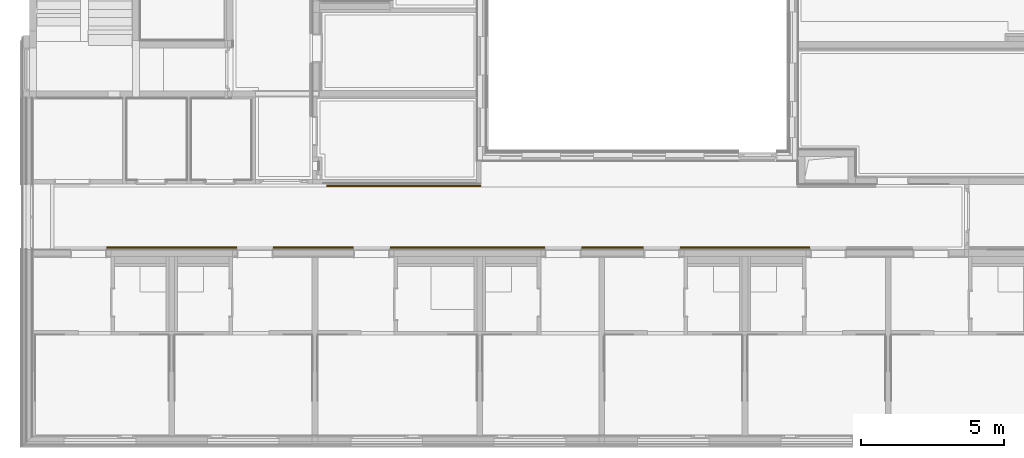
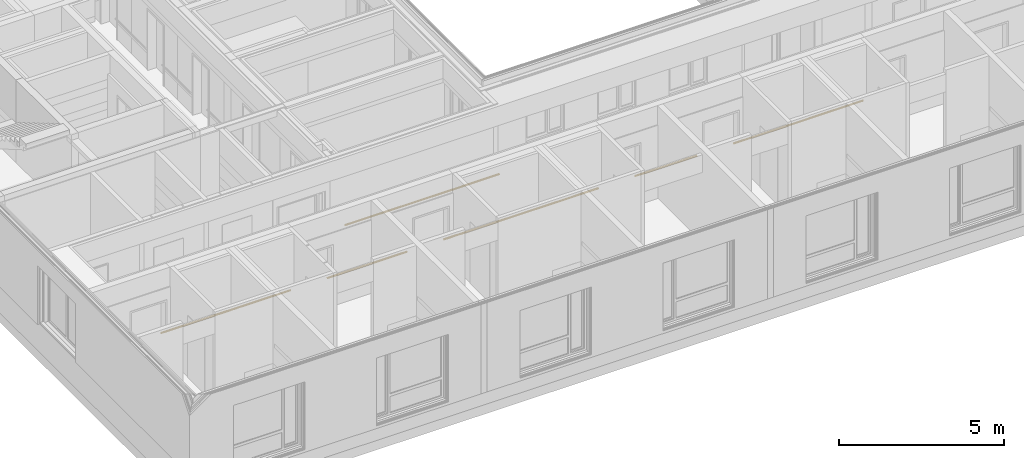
# One storey, part 192 of 207: 6 railings, 6 elements without a shape of their own.
"""IFC4 building model written with IfcOpenShell, lengths in metres."""

from ifc_helpers import new_model, entity, si_unit, converted_unit, derived_unit, frame, origin, place, context, subcontext, project, spatial, faceted_brep, material, element, aggregate, save


model = new_model("IFC4")

# Units and contexts
model_context = context("Model", 3, precision=1e-05, world=origin())
body_context = subcontext(model_context, "Body", "Model", "MODEL_VIEW")
ifc_project = project(units=[si_unit("LENGTHUNIT", "METRE"), si_unit("AREAUNIT", "SQUARE_METRE"), si_unit("VOLUMEUNIT", "CUBIC_METRE"), si_unit("MASSUNIT", "GRAM", prefix="KILO"), converted_unit("PLANEANGLEUNIT", "DEGREE", entity("IfcPlaneAngleMeasure", 0.0174532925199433), si_unit("PLANEANGLEUNIT", "RADIAN"), dimensions=[0, 0, 0, 0, 0, 0, 0]), derived_unit("THERMALTRANSMITTANCEUNIT", [(si_unit("POWERUNIT", "WATT"), 1), (si_unit("THERMODYNAMICTEMPERATUREUNIT", "KELVIN"), -1), (si_unit("LENGTHUNIT", "METRE"), -2)]), derived_unit("VOLUMETRICFLOWRATEUNIT", [(si_unit("LENGTHUNIT", "METRE"), 3), (converted_unit("TIMEUNIT", "hour", entity("IfcTimeMeasure", 3600.0), si_unit("TIMEUNIT", "SECOND"), dimensions=[0, 0, 1, 0, 0, 0, 0]), -1), (si_unit("LENGTHUNIT", "METRE"), -1)])], contexts=[model_context])

# Site, building, storey
site_placement = place(None, origin())
site = spatial("IfcSite", under=ifc_project, at=site_placement, Name="Psychiatrie Neubau Wunstorf", CompositionType="ELEMENT")
building_placement = place(site_placement, origin())
building = spatial("IfcBuilding", under=site, at=building_placement, Name="Neubau H2 Stationsgebäude", CompositionType="ELEMENT")
storey_placement = place(building_placement, frame((0.0, 0.0, -0.2)))
storey = spatial("IfcBuildingStorey", under=building, at=storey_placement, Name="H2 Ebene 0", CompositionType="ELEMENT", Elevation=-0.2)

# Assembly, railing
assembly_1_placement = place(storey_placement, frame((0.0, 0.0, 0.2)))
assembly_1 = element("IfcElementAssembly", 1, at=assembly_1_placement, inside=storey, Name="Geländer+Abstand", PredefinedType="NOTDEFINED")
ifc_material_1 = material(Name="Holz")
railing_1_placement = place(assembly_1_placement, frame((22.74, 4.38074963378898, 0.8)))
railing_1 = element("IfcRailing", 2, at=railing_1_placement, material=ifc_material_1, context=body_context, shape_type="Brep", body=[
    faceted_brep([(0.0, 0.0250000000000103, 0.000103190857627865), (0.0, 0.0293232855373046, 0.000481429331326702), (0.0, 0.0335152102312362, 0.00160465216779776), (0.0, 0.0374484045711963, 0.00343873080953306), (0.0, 0.0410033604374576, 0.00592793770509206), (0.0, 0.0440720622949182, 0.00899663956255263), (0.0, 0.0465612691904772, 0.0125515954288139), (0.0, 0.0483953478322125, 0.0164847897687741), (0.0, 0.0495185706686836, 0.0206767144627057), (0.0, 0.0498968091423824, 0.025), (0.0, 0.0495185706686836, 0.0293232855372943), (0.0, 0.0483953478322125, 0.0335152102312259), (0.0, 0.0465612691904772, 0.0374484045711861), (0.0, 0.0440720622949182, 0.0410033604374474), (0.0, 0.0410033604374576, 0.0440720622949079), (0.0, 0.0374484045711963, 0.0465612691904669), (0.0, 0.0335152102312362, 0.0483953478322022), (0.0, 0.0293232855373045, 0.0495185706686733), (0.0, 0.0250000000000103, 0.0498968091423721), (0.0, 0.020676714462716, 0.0495185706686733), (0.0, 0.0164847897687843, 0.0483953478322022), (0.0, 0.0125515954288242, 0.0465612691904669), (0.0, 0.0089966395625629, 0.044072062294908), (0.0, 0.00592793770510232, 0.0410033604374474), (0.0, 0.00343873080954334, 0.0374484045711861), (0.0, 0.00160465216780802, 0.0335152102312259), (0.0, 0.000481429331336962, 0.0293232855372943), (0.0, 0.000103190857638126, 0.025), (0.0, 0.000481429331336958, 0.0206767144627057), (0.0, 0.00160465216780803, 0.0164847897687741), (0.0, 0.00343873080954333, 0.0125515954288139), (0.0, 0.00592793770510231, 0.00899663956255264), (0.0, 0.00899663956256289, 0.00592793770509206), (0.0, 0.0125515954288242, 0.00343873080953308), (0.0, 0.0164847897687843, 0.00160465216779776), (0.0, 0.020676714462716, 0.000481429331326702), (4.52, 0.0250000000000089, 0.000103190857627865), (4.52, 0.0206767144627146, 0.000481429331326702), (4.52, 0.016484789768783, 0.00160465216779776), (4.52, 0.0125515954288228, 0.00343873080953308), (4.52, 0.00899663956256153, 0.00592793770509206), (4.52, 0.00592793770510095, 0.00899663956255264), (4.52, 0.00343873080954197, 0.0125515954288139), (4.52, 0.00160465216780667, 0.0164847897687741), (4.52, 0.000481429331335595, 0.0206767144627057), (4.52, 0.000103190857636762, 0.025), (4.52, 0.000481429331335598, 0.0293232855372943), (4.52, 0.00160465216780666, 0.0335152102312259), (4.52, 0.00343873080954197, 0.0374484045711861), (4.52, 0.00592793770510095, 0.0410033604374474), (4.52, 0.00899663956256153, 0.044072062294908), (4.52, 0.0125515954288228, 0.0465612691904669), (4.52, 0.016484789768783, 0.0483953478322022), (4.52, 0.0206767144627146, 0.0495185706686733), (4.52, 0.0250000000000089, 0.0498968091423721), (4.52, 0.0293232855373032, 0.0495185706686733), (4.52, 0.0335152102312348, 0.0483953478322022), (4.52, 0.037448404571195, 0.0465612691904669), (4.52, 0.0410033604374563, 0.0440720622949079), (4.52, 0.0440720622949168, 0.0410033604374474), (4.52, 0.0465612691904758, 0.0374484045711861), (4.52, 0.0483953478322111, 0.0335152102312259), (4.52, 0.0495185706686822, 0.0293232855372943), (4.52, 0.049896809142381, 0.025), (4.52, 0.0495185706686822, 0.0206767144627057), (4.52, 0.0483953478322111, 0.0164847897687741), (4.52, 0.0465612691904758, 0.0125515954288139), (4.52, 0.0440720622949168, 0.00899663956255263), (4.52, 0.0410033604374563, 0.00592793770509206), (4.52, 0.037448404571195, 0.00343873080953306), (4.52, 0.0335152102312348, 0.00160465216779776), (4.52, 0.0293232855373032, 0.000481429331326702)], [[[0, 1, 2, 3, 4, 5, 6, 7, 8, 9, 10, 11, 12, 13, 14, 15, 16, 17, 18, 19, 20, 21, 22, 23, 24, 25, 26, 27, 28, 29, 30, 31, 32, 33, 34, 35]], [[36, 37, 38, 39, 40, 41, 42, 43, 44, 45, 46, 47, 48, 49, 50, 51, 52, 53, 54, 55, 56, 57, 58, 59, 60, 61, 62, 63, 64, 65, 66, 67, 68, 69, 70, 71]], [[1, 0, 36, 71]], [[2, 1, 71, 70]], [[3, 2, 70, 69]], [[4, 3, 69, 68]], [[5, 4, 68, 67]], [[6, 5, 67, 66]], [[7, 6, 66, 65]], [[8, 7, 65, 64]], [[9, 8, 64, 63]], [[10, 9, 63, 62]], [[11, 10, 62, 61]], [[12, 11, 61, 60]], [[13, 12, 60, 59]], [[14, 13, 59, 58]], [[15, 14, 58, 57]], [[16, 15, 57, 56]], [[17, 16, 56, 55]], [[18, 17, 55, 54]], [[19, 18, 54, 53]], [[20, 19, 53, 52]], [[21, 20, 52, 51]], [[22, 21, 51, 50]], [[23, 22, 50, 49]], [[24, 23, 49, 48]], [[25, 24, 48, 47]], [[26, 25, 47, 46]], [[27, 26, 46, 45]], [[28, 27, 45, 44]], [[29, 28, 44, 43]], [[30, 29, 43, 42]], [[31, 30, 42, 41]], [[32, 31, 41, 40]], [[33, 32, 40, 39]], [[34, 33, 39, 38]], [[35, 34, 38, 37]], [[0, 35, 37, 36]]], orient=[[False], [False], [False], [False], [False], [False], [False], [False], [False], [False], [False], [False], [False], [False], [False], [False], [False], [False], [False], [False], [False], [False], [False], [False], [False], [False], [False], [False], [False], [False], [False], [False], [False], [False], [False], [False], [False], [False]]),
])
aggregate(assembly_1, [railing_1])

assembly_2_placement = place(storey_placement, frame((0.0, 0.0, 0.2)))
assembly_2 = element("IfcElementAssembly", 3, at=assembly_2_placement, inside=storey, Name="Geländer+Abstand", PredefinedType="NOTDEFINED")
ifc_material_2 = material(Name="Holz")
railing_2_placement = place(assembly_2_placement, frame((19.3, 4.380749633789, 0.8)))
railing_2 = element("IfcRailing", 4, at=railing_2_placement, material=ifc_material_2, context=body_context, shape_type="Brep", body=[
    faceted_brep([(2.15, 0.000103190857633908, 0.025), (2.15, 0.000481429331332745, 0.0293232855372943), (2.15, 0.00160465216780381, 0.0335152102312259), (2.15, 0.00343873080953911, 0.0374484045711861), (2.15, 0.0059279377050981, 0.0410033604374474), (2.15, 0.00899663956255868, 0.0440720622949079), (2.15, 0.01255159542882, 0.0465612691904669), (2.15, 0.0164847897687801, 0.0483953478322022), (2.15, 0.0206767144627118, 0.0495185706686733), (2.15, 0.025000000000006, 0.0498968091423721), (2.15, 0.0293232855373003, 0.0495185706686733), (2.15, 0.033515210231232, 0.0483953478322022), (2.15, 0.0374484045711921, 0.0465612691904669), (2.15, 0.0410033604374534, 0.0440720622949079), (2.15, 0.044072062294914, 0.0410033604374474), (2.15, 0.046561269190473, 0.0374484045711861), (2.15, 0.0483953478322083, 0.0335152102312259), (2.15, 0.0495185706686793, 0.0293232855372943), (2.15, 0.0498968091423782, 0.025), (2.15, 0.0495185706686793, 0.0206767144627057), (2.15, 0.0483953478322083, 0.0164847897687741), (2.15, 0.046561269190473, 0.0125515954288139), (2.15, 0.044072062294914, 0.00899663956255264), (2.15, 0.0410033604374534, 0.00592793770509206), (2.15, 0.0374484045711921, 0.00343873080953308), (2.15, 0.033515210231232, 0.00160465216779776), (2.15, 0.0293232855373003, 0.000481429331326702), (2.15, 0.0250000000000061, 0.000103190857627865), (2.15, 0.0206767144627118, 0.000481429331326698), (2.15, 0.0164847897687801, 0.00160465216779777), (2.15, 0.01255159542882, 0.00343873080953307), (2.15, 0.00899663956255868, 0.00592793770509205), (2.15, 0.0059279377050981, 0.00899663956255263), (2.15, 0.00343873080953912, 0.0125515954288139), (2.15, 0.00160465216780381, 0.0164847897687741), (2.15, 0.000481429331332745, 0.0206767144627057), (0.0, 0.000103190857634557, 0.025), (0.0, 0.000481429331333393, 0.0206767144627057), (0.0, 0.00160465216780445, 0.0164847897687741), (0.0, 0.00343873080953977, 0.0125515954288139), (0.0, 0.00592793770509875, 0.00899663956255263), (0.0, 0.00899663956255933, 0.00592793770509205), (0.0, 0.0125515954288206, 0.00343873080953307), (0.0, 0.0164847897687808, 0.00160465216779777), (0.0, 0.0206767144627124, 0.000481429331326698), (0.0, 0.0250000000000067, 0.000103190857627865), (0.0, 0.029323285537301, 0.000481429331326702), (0.0, 0.0335152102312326, 0.00160465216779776), (0.0, 0.0374484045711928, 0.00343873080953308), (0.0, 0.0410033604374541, 0.00592793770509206), (0.0, 0.0440720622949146, 0.00899663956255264), (0.0, 0.0465612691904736, 0.0125515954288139), (0.0, 0.0483953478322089, 0.0164847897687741), (0.0, 0.04951857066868, 0.0206767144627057), (0.0, 0.0498968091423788, 0.025), (0.0, 0.04951857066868, 0.0293232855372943), (0.0, 0.0483953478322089, 0.0335152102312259), (0.0, 0.0465612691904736, 0.0374484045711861), (0.0, 0.0440720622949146, 0.0410033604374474), (0.0, 0.0410033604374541, 0.0440720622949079), (0.0, 0.0374484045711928, 0.0465612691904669), (0.0, 0.0335152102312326, 0.0483953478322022), (0.0, 0.029323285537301, 0.0495185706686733), (0.0, 0.0250000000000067, 0.0498968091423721), (0.0, 0.0206767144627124, 0.0495185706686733), (0.0, 0.0164847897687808, 0.0483953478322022), (0.0, 0.0125515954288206, 0.0465612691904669), (0.0, 0.00899663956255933, 0.0440720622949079), (0.0, 0.00592793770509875, 0.0410033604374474), (0.0, 0.00343873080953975, 0.0374484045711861), (0.0, 0.00160465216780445, 0.0335152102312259), (0.0, 0.000481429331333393, 0.0293232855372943)], [[[0, 1, 2, 3, 4, 5, 6, 7, 8, 9, 10, 11, 12, 13, 14, 15, 16, 17, 18, 19, 20, 21, 22, 23, 24, 25, 26, 27, 28, 29, 30, 31, 32, 33, 34, 35]], [[36, 37, 38, 39, 40, 41, 42, 43, 44, 45, 46, 47, 48, 49, 50, 51, 52, 53, 54, 55, 56, 57, 58, 59, 60, 61, 62, 63, 64, 65, 66, 67, 68, 69, 70, 71]], [[1, 0, 36, 71]], [[2, 1, 71, 70]], [[3, 2, 70, 69]], [[4, 3, 69, 68]], [[5, 4, 68, 67]], [[6, 5, 67, 66]], [[7, 6, 66, 65]], [[8, 7, 65, 64]], [[9, 8, 64, 63]], [[10, 9, 63, 62]], [[11, 10, 62, 61]], [[12, 11, 61, 60]], [[13, 12, 60, 59]], [[14, 13, 59, 58]], [[15, 14, 58, 57]], [[16, 15, 57, 56]], [[17, 16, 56, 55]], [[18, 17, 55, 54]], [[19, 18, 54, 53]], [[20, 19, 53, 52]], [[21, 20, 52, 51]], [[22, 21, 51, 50]], [[23, 22, 50, 49]], [[24, 23, 49, 48]], [[25, 24, 48, 47]], [[26, 25, 47, 46]], [[27, 26, 46, 45]], [[28, 27, 45, 44]], [[29, 28, 44, 43]], [[30, 29, 43, 42]], [[31, 30, 42, 41]], [[32, 31, 41, 40]], [[33, 32, 40, 39]], [[34, 33, 39, 38]], [[35, 34, 38, 37]], [[0, 35, 37, 36]]], orient=[[False], [False], [False], [False], [False], [False], [False], [False], [False], [False], [False], [False], [False], [False], [False], [False], [False], [False], [False], [False], [False], [False], [False], [False], [False], [False], [False], [False], [False], [False], [False], [False], [False], [False], [False], [False], [False], [False]]),
])
aggregate(assembly_2, [railing_2])

assembly_3_placement = place(storey_placement, frame((0.0, 0.0, 0.2)))
assembly_3 = element("IfcElementAssembly", 5, at=assembly_3_placement, inside=storey, Name="Geländer+Abstand", PredefinedType="NOTDEFINED")
ifc_material_3 = material(Name="Holz")
railing_3_placement = place(assembly_3_placement, frame((2.74, 4.38074963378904, 0.8)))
railing_3 = element("IfcRailing", 6, at=railing_3_placement, material=ifc_material_3, context=body_context, shape_type="Brep", body=[
    faceted_brep([(0.0, 0.0250000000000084, 0.000103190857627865), (0.0, 0.0293232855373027, 0.000481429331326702), (0.0, 0.0335152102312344, 0.00160465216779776), (0.0, 0.0374484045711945, 0.00343873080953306), (0.0, 0.0410033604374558, 0.00592793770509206), (0.0, 0.0440720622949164, 0.00899663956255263), (0.0, 0.0465612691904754, 0.0125515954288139), (0.0, 0.0483953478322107, 0.0164847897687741), (0.0, 0.0495185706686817, 0.0206767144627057), (0.0, 0.0498968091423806, 0.025), (0.0, 0.0495185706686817, 0.0293232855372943), (0.0, 0.0483953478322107, 0.0335152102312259), (0.0, 0.0465612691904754, 0.0374484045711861), (0.0, 0.0440720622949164, 0.0410033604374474), (0.0, 0.0410033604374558, 0.0440720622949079), (0.0, 0.0374484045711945, 0.0465612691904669), (0.0, 0.0335152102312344, 0.0483953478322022), (0.0, 0.0293232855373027, 0.0495185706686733), (0.0, 0.0250000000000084, 0.0498968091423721), (0.0, 0.0206767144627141, 0.0495185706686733), (0.0, 0.0164847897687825, 0.0483953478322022), (0.0, 0.0125515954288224, 0.0465612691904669), (0.0, 0.00899663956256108, 0.044072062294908), (0.0, 0.0059279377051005, 0.0410033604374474), (0.0, 0.00343873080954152, 0.0374484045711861), (0.0, 0.0016046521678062, 0.0335152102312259), (0.0, 0.000481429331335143, 0.0293232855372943), (0.0, 0.000103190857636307, 0.025), (0.0, 0.000481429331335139, 0.0206767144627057), (0.0, 0.00160465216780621, 0.0164847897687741), (0.0, 0.00343873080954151, 0.0125515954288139), (0.0, 0.00592793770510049, 0.00899663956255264), (0.0, 0.00899663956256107, 0.00592793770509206), (0.0, 0.0125515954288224, 0.00343873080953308), (0.0, 0.0164847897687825, 0.00160465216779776), (0.0, 0.0206767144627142, 0.000481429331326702), (4.52, 0.0250000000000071, 0.000103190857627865), (4.52, 0.0206767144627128, 0.000481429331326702), (4.52, 0.0164847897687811, 0.00160465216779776), (4.52, 0.012551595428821, 0.00343873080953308), (4.52, 0.00899663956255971, 0.00592793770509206), (4.52, 0.00592793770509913, 0.00899663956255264), (4.52, 0.00343873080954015, 0.0125515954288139), (4.52, 0.00160465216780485, 0.0164847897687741), (4.52, 0.000481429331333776, 0.0206767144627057), (4.52, 0.000103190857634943, 0.025), (4.52, 0.000481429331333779, 0.0293232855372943), (4.52, 0.00160465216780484, 0.0335152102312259), (4.52, 0.00343873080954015, 0.0374484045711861), (4.52, 0.00592793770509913, 0.0410033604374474), (4.52, 0.00899663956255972, 0.044072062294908), (4.52, 0.012551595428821, 0.0465612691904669), (4.52, 0.0164847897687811, 0.0483953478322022), (4.52, 0.0206767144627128, 0.0495185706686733), (4.52, 0.0250000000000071, 0.0498968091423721), (4.52, 0.0293232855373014, 0.0495185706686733), (4.52, 0.033515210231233, 0.0483953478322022), (4.52, 0.0374484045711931, 0.0465612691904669), (4.52, 0.0410033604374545, 0.0440720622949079), (4.52, 0.044072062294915, 0.0410033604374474), (4.52, 0.046561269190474, 0.0374484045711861), (4.52, 0.0483953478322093, 0.0335152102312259), (4.52, 0.0495185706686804, 0.0293232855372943), (4.52, 0.0498968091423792, 0.025), (4.52, 0.0495185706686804, 0.0206767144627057), (4.52, 0.0483953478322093, 0.0164847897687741), (4.52, 0.046561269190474, 0.0125515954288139), (4.52, 0.044072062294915, 0.00899663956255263), (4.52, 0.0410033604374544, 0.00592793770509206), (4.52, 0.0374484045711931, 0.00343873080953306), (4.52, 0.033515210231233, 0.00160465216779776), (4.52, 0.0293232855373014, 0.000481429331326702)], [[[0, 1, 2, 3, 4, 5, 6, 7, 8, 9, 10, 11, 12, 13, 14, 15, 16, 17, 18, 19, 20, 21, 22, 23, 24, 25, 26, 27, 28, 29, 30, 31, 32, 33, 34, 35]], [[36, 37, 38, 39, 40, 41, 42, 43, 44, 45, 46, 47, 48, 49, 50, 51, 52, 53, 54, 55, 56, 57, 58, 59, 60, 61, 62, 63, 64, 65, 66, 67, 68, 69, 70, 71]], [[1, 0, 36, 71]], [[2, 1, 71, 70]], [[3, 2, 70, 69]], [[4, 3, 69, 68]], [[5, 4, 68, 67]], [[6, 5, 67, 66]], [[7, 6, 66, 65]], [[8, 7, 65, 64]], [[9, 8, 64, 63]], [[10, 9, 63, 62]], [[11, 10, 62, 61]], [[12, 11, 61, 60]], [[13, 12, 60, 59]], [[14, 13, 59, 58]], [[15, 14, 58, 57]], [[16, 15, 57, 56]], [[17, 16, 56, 55]], [[18, 17, 55, 54]], [[19, 18, 54, 53]], [[20, 19, 53, 52]], [[21, 20, 52, 51]], [[22, 21, 51, 50]], [[23, 22, 50, 49]], [[24, 23, 49, 48]], [[25, 24, 48, 47]], [[26, 25, 47, 46]], [[27, 26, 46, 45]], [[28, 27, 45, 44]], [[29, 28, 44, 43]], [[30, 29, 43, 42]], [[31, 30, 42, 41]], [[32, 31, 41, 40]], [[33, 32, 40, 39]], [[34, 33, 39, 38]], [[35, 34, 38, 37]], [[0, 35, 37, 36]]], orient=[[False], [False], [False], [False], [False], [False], [False], [False], [False], [False], [False], [False], [False], [False], [False], [False], [False], [False], [False], [False], [False], [False], [False], [False], [False], [False], [False], [False], [False], [False], [False], [False], [False], [False], [False], [False], [False], [False]]),
])
aggregate(assembly_3, [railing_3])

assembly_4_placement = place(storey_placement, frame((0.0, 0.0, 0.2)))
assembly_4 = element("IfcElementAssembly", 7, at=assembly_4_placement, inside=storey, Name="Geländer+Abstand", PredefinedType="NOTDEFINED")
ifc_material_4 = material(Name="Holz")
railing_4_placement = place(assembly_4_placement, frame((8.55, 4.38074963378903, 0.8)))
railing_4 = element("IfcRailing", 8, at=railing_4_placement, material=ifc_material_4, context=body_context, shape_type="Brep", body=[
    faceted_brep([(0.0, 0.0250000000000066, 0.000103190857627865), (0.0, 0.0293232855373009, 0.000481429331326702), (0.0, 0.0335152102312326, 0.00160465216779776), (0.0, 0.0374484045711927, 0.00343873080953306), (0.0, 0.041003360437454, 0.00592793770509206), (0.0, 0.0440720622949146, 0.00899663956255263), (0.0, 0.0465612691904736, 0.0125515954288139), (0.0, 0.0483953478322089, 0.0164847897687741), (0.0, 0.0495185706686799, 0.0206767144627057), (0.0, 0.0498968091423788, 0.025), (0.0, 0.0495185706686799, 0.0293232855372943), (0.0, 0.0483953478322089, 0.0335152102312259), (0.0, 0.0465612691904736, 0.0374484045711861), (0.0, 0.0440720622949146, 0.0410033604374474), (0.0, 0.041003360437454, 0.0440720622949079), (0.0, 0.0374484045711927, 0.0465612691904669), (0.0, 0.0335152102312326, 0.0483953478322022), (0.0, 0.0293232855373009, 0.0495185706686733), (0.0, 0.0250000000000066, 0.0498968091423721), (0.0, 0.0206767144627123, 0.0495185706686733), (0.0, 0.0164847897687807, 0.0483953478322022), (0.0, 0.0125515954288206, 0.0465612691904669), (0.0, 0.00899663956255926, 0.044072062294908), (0.0, 0.00592793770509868, 0.0410033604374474), (0.0, 0.0034387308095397, 0.0374484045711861), (0.0, 0.00160465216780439, 0.0335152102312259), (0.0, 0.000481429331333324, 0.0293232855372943), (0.0, 0.000103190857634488, 0.025), (0.0, 0.00048142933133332, 0.0206767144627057), (0.0, 0.00160465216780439, 0.0164847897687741), (0.0, 0.0034387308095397, 0.0125515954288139), (0.0, 0.00592793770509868, 0.00899663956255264), (0.0, 0.00899663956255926, 0.00592793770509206), (0.0, 0.0125515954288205, 0.00343873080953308), (0.0, 0.0164847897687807, 0.00160465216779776), (0.0, 0.0206767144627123, 0.000481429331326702), (2.775, 0.0250000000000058, 0.000103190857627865), (2.775, 0.0206767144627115, 0.000481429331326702), (2.775, 0.0164847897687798, 0.00160465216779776), (2.775, 0.0125515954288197, 0.00343873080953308), (2.775, 0.00899663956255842, 0.00592793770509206), (2.775, 0.00592793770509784, 0.00899663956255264), (2.775, 0.00343873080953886, 0.0125515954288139), (2.775, 0.00160465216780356, 0.0164847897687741), (2.775, 0.000481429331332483, 0.0206767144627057), (2.775, 0.000103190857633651, 0.025), (2.775, 0.000481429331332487, 0.0293232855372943), (2.775, 0.00160465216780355, 0.0335152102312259), (2.775, 0.00343873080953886, 0.0374484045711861), (2.775, 0.00592793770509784, 0.0410033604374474), (2.775, 0.00899663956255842, 0.044072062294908), (2.775, 0.0125515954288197, 0.0465612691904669), (2.775, 0.0164847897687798, 0.0483953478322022), (2.775, 0.0206767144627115, 0.0495185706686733), (2.775, 0.0250000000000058, 0.0498968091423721), (2.775, 0.0293232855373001, 0.0495185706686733), (2.775, 0.0335152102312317, 0.0483953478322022), (2.775, 0.0374484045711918, 0.0465612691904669), (2.775, 0.0410033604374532, 0.0440720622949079), (2.775, 0.0440720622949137, 0.0410033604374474), (2.775, 0.0465612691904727, 0.0374484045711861), (2.775, 0.048395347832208, 0.0335152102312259), (2.775, 0.0495185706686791, 0.0293232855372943), (2.775, 0.0498968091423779, 0.025), (2.775, 0.0495185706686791, 0.0206767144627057), (2.775, 0.048395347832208, 0.0164847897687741), (2.775, 0.0465612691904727, 0.0125515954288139), (2.775, 0.0440720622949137, 0.00899663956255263), (2.775, 0.0410033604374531, 0.00592793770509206), (2.775, 0.0374484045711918, 0.00343873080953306), (2.775, 0.0335152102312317, 0.00160465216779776), (2.775, 0.0293232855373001, 0.000481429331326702)], [[[0, 1, 2, 3, 4, 5, 6, 7, 8, 9, 10, 11, 12, 13, 14, 15, 16, 17, 18, 19, 20, 21, 22, 23, 24, 25, 26, 27, 28, 29, 30, 31, 32, 33, 34, 35]], [[36, 37, 38, 39, 40, 41, 42, 43, 44, 45, 46, 47, 48, 49, 50, 51, 52, 53, 54, 55, 56, 57, 58, 59, 60, 61, 62, 63, 64, 65, 66, 67, 68, 69, 70, 71]], [[1, 0, 36, 71]], [[2, 1, 71, 70]], [[3, 2, 70, 69]], [[4, 3, 69, 68]], [[5, 4, 68, 67]], [[6, 5, 67, 66]], [[7, 6, 66, 65]], [[8, 7, 65, 64]], [[9, 8, 64, 63]], [[10, 9, 63, 62]], [[11, 10, 62, 61]], [[12, 11, 61, 60]], [[13, 12, 60, 59]], [[14, 13, 59, 58]], [[15, 14, 58, 57]], [[16, 15, 57, 56]], [[17, 16, 56, 55]], [[18, 17, 55, 54]], [[19, 18, 54, 53]], [[20, 19, 53, 52]], [[21, 20, 52, 51]], [[22, 21, 51, 50]], [[23, 22, 50, 49]], [[24, 23, 49, 48]], [[25, 24, 48, 47]], [[26, 25, 47, 46]], [[27, 26, 46, 45]], [[28, 27, 45, 44]], [[29, 28, 44, 43]], [[30, 29, 43, 42]], [[31, 30, 42, 41]], [[32, 31, 41, 40]], [[33, 32, 40, 39]], [[34, 33, 39, 38]], [[35, 34, 38, 37]], [[0, 35, 37, 36]]], orient=[[False], [False], [False], [False], [False], [False], [False], [False], [False], [False], [False], [False], [False], [False], [False], [False], [False], [False], [False], [False], [False], [False], [False], [False], [False], [False], [False], [False], [False], [False], [False], [False], [False], [False], [False], [False], [False], [False]]),
])
aggregate(assembly_4, [railing_4])

assembly_5_placement = place(storey_placement, frame((0.0, 0.0, 0.2)))
assembly_5 = element("IfcElementAssembly", 9, at=assembly_5_placement, inside=storey, Name="Geländer+Abstand", PredefinedType="NOTDEFINED")
ifc_material_5 = material(Name="Holz")
railing_5_placement = place(assembly_5_placement, frame((12.615, 4.38074963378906, 0.8)))
railing_5 = element("IfcRailing", 10, at=railing_5_placement, material=ifc_material_5, context=body_context, shape_type="Brep", body=[
    faceted_brep([(5.395, 0.000103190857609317, 0.025), (5.395, 0.000481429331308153, 0.0293232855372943), (5.395, 0.00160465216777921, 0.0335152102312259), (5.395, 0.00343873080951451, 0.0374484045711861), (5.395, 0.00592793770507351, 0.0410033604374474), (5.395, 0.00899663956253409, 0.0440720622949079), (5.395, 0.0125515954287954, 0.0465612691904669), (5.395, 0.0164847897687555, 0.0483953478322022), (5.395, 0.0206767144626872, 0.0495185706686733), (5.395, 0.0249999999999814, 0.0498968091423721), (5.395, 0.0293232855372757, 0.0495185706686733), (5.395, 0.0335152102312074, 0.0483953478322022), (5.395, 0.0374484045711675, 0.0465612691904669), (5.395, 0.0410033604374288, 0.0440720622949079), (5.395, 0.0440720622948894, 0.0410033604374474), (5.395, 0.0465612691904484, 0.0374484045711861), (5.395, 0.0483953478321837, 0.0335152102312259), (5.395, 0.0495185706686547, 0.0293232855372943), (5.395, 0.0498968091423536, 0.025), (5.395, 0.0495185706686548, 0.0206767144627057), (5.395, 0.0483953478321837, 0.0164847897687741), (5.395, 0.0465612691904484, 0.0125515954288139), (5.395, 0.0440720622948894, 0.00899663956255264), (5.395, 0.0410033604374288, 0.00592793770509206), (5.395, 0.0374484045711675, 0.00343873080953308), (5.395, 0.0335152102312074, 0.00160465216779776), (5.395, 0.0293232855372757, 0.000481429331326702), (5.395, 0.0249999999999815, 0.000103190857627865), (5.395, 0.0206767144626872, 0.000481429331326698), (5.395, 0.0164847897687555, 0.00160465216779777), (5.395, 0.0125515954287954, 0.00343873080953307), (5.395, 0.00899663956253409, 0.00592793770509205), (5.395, 0.00592793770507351, 0.00899663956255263), (5.395, 0.00343873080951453, 0.0125515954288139), (5.395, 0.00160465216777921, 0.0164847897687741), (5.395, 0.000481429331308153, 0.0206767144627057), (0.0, 0.000103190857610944, 0.025), (0.0, 0.00048142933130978, 0.0206767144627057), (0.0, 0.00160465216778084, 0.0164847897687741), (0.0, 0.00343873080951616, 0.0125515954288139), (0.0, 0.00592793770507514, 0.00899663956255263), (0.0, 0.00899663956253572, 0.00592793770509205), (0.0, 0.012551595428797, 0.00343873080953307), (0.0, 0.0164847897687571, 0.00160465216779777), (0.0, 0.0206767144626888, 0.000481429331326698), (0.0, 0.0249999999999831, 0.000103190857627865), (0.0, 0.0293232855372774, 0.000481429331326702), (0.0, 0.033515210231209, 0.00160465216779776), (0.0, 0.0374484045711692, 0.00343873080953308), (0.0, 0.0410033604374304, 0.00592793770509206), (0.0, 0.044072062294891, 0.00899663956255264), (0.0, 0.04656126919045, 0.0125515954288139), (0.0, 0.0483953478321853, 0.0164847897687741), (0.0, 0.0495185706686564, 0.0206767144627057), (0.0, 0.0498968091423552, 0.025), (0.0, 0.0495185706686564, 0.0293232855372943), (0.0, 0.0483953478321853, 0.0335152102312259), (0.0, 0.04656126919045, 0.0374484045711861), (0.0, 0.044072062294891, 0.0410033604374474), (0.0, 0.0410033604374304, 0.0440720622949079), (0.0, 0.0374484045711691, 0.0465612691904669), (0.0, 0.033515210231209, 0.0483953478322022), (0.0, 0.0293232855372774, 0.0495185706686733), (0.0, 0.0249999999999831, 0.0498968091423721), (0.0, 0.0206767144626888, 0.0495185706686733), (0.0, 0.0164847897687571, 0.0483953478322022), (0.0, 0.012551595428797, 0.0465612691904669), (0.0, 0.00899663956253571, 0.0440720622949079), (0.0, 0.00592793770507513, 0.0410033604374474), (0.0, 0.00343873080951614, 0.0374484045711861), (0.0, 0.00160465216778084, 0.0335152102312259), (0.0, 0.00048142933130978, 0.0293232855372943)], [[[0, 1, 2, 3, 4, 5, 6, 7, 8, 9, 10, 11, 12, 13, 14, 15, 16, 17, 18, 19, 20, 21, 22, 23, 24, 25, 26, 27, 28, 29, 30, 31, 32, 33, 34, 35]], [[36, 37, 38, 39, 40, 41, 42, 43, 44, 45, 46, 47, 48, 49, 50, 51, 52, 53, 54, 55, 56, 57, 58, 59, 60, 61, 62, 63, 64, 65, 66, 67, 68, 69, 70, 71]], [[1, 0, 36, 71]], [[2, 1, 71, 70]], [[3, 2, 70, 69]], [[4, 3, 69, 68]], [[5, 4, 68, 67]], [[6, 5, 67, 66]], [[7, 6, 66, 65]], [[8, 7, 65, 64]], [[9, 8, 64, 63]], [[10, 9, 63, 62]], [[11, 10, 62, 61]], [[12, 11, 61, 60]], [[13, 12, 60, 59]], [[14, 13, 59, 58]], [[15, 14, 58, 57]], [[16, 15, 57, 56]], [[17, 16, 56, 55]], [[18, 17, 55, 54]], [[19, 18, 54, 53]], [[20, 19, 53, 52]], [[21, 20, 52, 51]], [[22, 21, 51, 50]], [[23, 22, 50, 49]], [[24, 23, 49, 48]], [[25, 24, 48, 47]], [[26, 25, 47, 46]], [[27, 26, 46, 45]], [[28, 27, 45, 44]], [[29, 28, 44, 43]], [[30, 29, 43, 42]], [[31, 30, 42, 41]], [[32, 31, 41, 40]], [[33, 32, 40, 39]], [[34, 33, 39, 38]], [[35, 34, 38, 37]], [[0, 35, 37, 36]]], orient=[[False], [False], [False], [False], [False], [False], [False], [False], [False], [False], [False], [False], [False], [False], [False], [False], [False], [False], [False], [False], [False], [False], [False], [False], [False], [False], [False], [False], [False], [False], [False], [False], [False], [False], [False], [False], [False], [False]]),
])
aggregate(assembly_5, [railing_5])

assembly_6_placement = place(storey_placement, frame((0.0, 0.0, 0.2)))
assembly_6 = element("IfcElementAssembly", 11, at=assembly_6_placement, inside=storey, Name="Geländer+Abstand", PredefinedType="NOTDEFINED")
ifc_material_6 = material(Name="Holz")
railing_6_placement = place(assembly_6_placement, frame((10.41, 6.52499989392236, 0.8)))
railing_6 = element("IfcRailing", 12, at=railing_6_placement, material=ifc_material_6, context=body_context, shape_type="Brep", body=[
    faceted_brep([(0.0, 0.0498968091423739, 0.025), (0.0, 0.049518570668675, 0.0293232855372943), (0.0, 0.048395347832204, 0.0335152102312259), (0.0, 0.0465612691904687, 0.0374484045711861), (0.0, 0.0440720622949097, 0.0410033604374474), (0.0, 0.0410033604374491, 0.0440720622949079), (0.0, 0.0374484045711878, 0.0465612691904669), (0.0, 0.0335152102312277, 0.0483953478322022), (0.0, 0.029323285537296, 0.0495185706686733), (0.0, 0.0250000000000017, 0.0498968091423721), (0.0, 0.0206767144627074, 0.0495185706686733), (0.0, 0.0164847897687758, 0.0483953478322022), (0.0, 0.0125515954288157, 0.0465612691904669), (0.0, 0.00899663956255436, 0.0440720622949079), (0.0, 0.00592793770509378, 0.0410033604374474), (0.0, 0.00343873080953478, 0.0374484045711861), (0.0, 0.00160465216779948, 0.0335152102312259), (0.0, 0.000481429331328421, 0.0293232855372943), (0.0, 0.000103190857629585, 0.025), (0.0, 0.000481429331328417, 0.0206767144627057), (0.0, 0.00160465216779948, 0.0164847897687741), (0.0, 0.00343873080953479, 0.0125515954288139), (0.0, 0.00592793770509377, 0.00899663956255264), (0.0, 0.00899663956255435, 0.00592793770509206), (0.0, 0.0125515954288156, 0.00343873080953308), (0.0, 0.0164847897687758, 0.00160465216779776), (0.0, 0.0206767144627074, 0.000481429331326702), (0.0, 0.0250000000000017, 0.000103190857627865), (0.0, 0.029323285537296, 0.000481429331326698), (0.0, 0.0335152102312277, 0.00160465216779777), (0.0, 0.0374484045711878, 0.00343873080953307), (0.0, 0.0410033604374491, 0.00592793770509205), (0.0, 0.0440720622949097, 0.00899663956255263), (0.0, 0.0465612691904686, 0.0125515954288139), (0.0, 0.048395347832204, 0.0164847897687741), (0.0, 0.049518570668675, 0.0206767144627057), (5.379, 0.0498968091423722, 0.025), (5.379, 0.0495185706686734, 0.0206767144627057), (5.379, 0.0483953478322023, 0.0164847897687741), (5.379, 0.046561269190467, 0.0125515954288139), (5.379, 0.044072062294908, 0.00899663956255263), (5.379, 0.0410033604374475, 0.00592793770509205), (5.379, 0.0374484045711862, 0.00343873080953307), (5.379, 0.033515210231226, 0.00160465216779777), (5.379, 0.0293232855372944, 0.000481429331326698), (5.379, 0.0250000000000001, 0.000103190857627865), (5.379, 0.0206767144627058, 0.000481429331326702), (5.379, 0.0164847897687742, 0.00160465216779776), (5.379, 0.012551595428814, 0.00343873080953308), (5.379, 0.00899663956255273, 0.00592793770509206), (5.379, 0.00592793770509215, 0.00899663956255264), (5.379, 0.00343873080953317, 0.0125515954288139), (5.379, 0.00160465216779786, 0.0164847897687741), (5.379, 0.000481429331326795, 0.0206767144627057), (5.379, 0.000103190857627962, 0.025), (5.379, 0.000481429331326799, 0.0293232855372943), (5.379, 0.00160465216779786, 0.0335152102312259), (5.379, 0.00343873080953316, 0.0374484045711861), (5.379, 0.00592793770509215, 0.0410033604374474), (5.379, 0.00899663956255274, 0.0440720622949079), (5.379, 0.012551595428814, 0.0465612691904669), (5.379, 0.0164847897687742, 0.0483953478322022), (5.379, 0.0206767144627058, 0.0495185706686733), (5.379, 0.0250000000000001, 0.0498968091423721), (5.379, 0.0293232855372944, 0.0495185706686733), (5.379, 0.033515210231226, 0.0483953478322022), (5.379, 0.0374484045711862, 0.0465612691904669), (5.379, 0.0410033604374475, 0.0440720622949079), (5.379, 0.044072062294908, 0.0410033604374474), (5.379, 0.046561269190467, 0.0374484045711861), (5.379, 0.0483953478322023, 0.0335152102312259), (5.379, 0.0495185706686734, 0.0293232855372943)], [[[0, 1, 2, 3, 4, 5, 6, 7, 8, 9, 10, 11, 12, 13, 14, 15, 16, 17, 18, 19, 20, 21, 22, 23, 24, 25, 26, 27, 28, 29, 30, 31, 32, 33, 34, 35]], [[36, 37, 38, 39, 40, 41, 42, 43, 44, 45, 46, 47, 48, 49, 50, 51, 52, 53, 54, 55, 56, 57, 58, 59, 60, 61, 62, 63, 64, 65, 66, 67, 68, 69, 70, 71]], [[1, 0, 36, 71]], [[2, 1, 71, 70]], [[3, 2, 70, 69]], [[4, 3, 69, 68]], [[5, 4, 68, 67]], [[6, 5, 67, 66]], [[7, 6, 66, 65]], [[8, 7, 65, 64]], [[9, 8, 64, 63]], [[10, 9, 63, 62]], [[11, 10, 62, 61]], [[12, 11, 61, 60]], [[13, 12, 60, 59]], [[14, 13, 59, 58]], [[15, 14, 58, 57]], [[16, 15, 57, 56]], [[17, 16, 56, 55]], [[18, 17, 55, 54]], [[19, 18, 54, 53]], [[20, 19, 53, 52]], [[21, 20, 52, 51]], [[22, 21, 51, 50]], [[23, 22, 50, 49]], [[24, 23, 49, 48]], [[25, 24, 48, 47]], [[26, 25, 47, 46]], [[27, 26, 46, 45]], [[28, 27, 45, 44]], [[29, 28, 44, 43]], [[30, 29, 43, 42]], [[31, 30, 42, 41]], [[32, 31, 41, 40]], [[33, 32, 40, 39]], [[34, 33, 39, 38]], [[35, 34, 38, 37]], [[0, 35, 37, 36]]], orient=[[False], [False], [False], [False], [False], [False], [False], [False], [False], [False], [False], [False], [False], [False], [False], [False], [False], [False], [False], [False], [False], [False], [False], [False], [False], [False], [False], [False], [False], [False], [False], [False], [False], [False], [False], [False], [False], [False]]),
])
aggregate(assembly_6, [railing_6])

save(model, "model.ifc")
